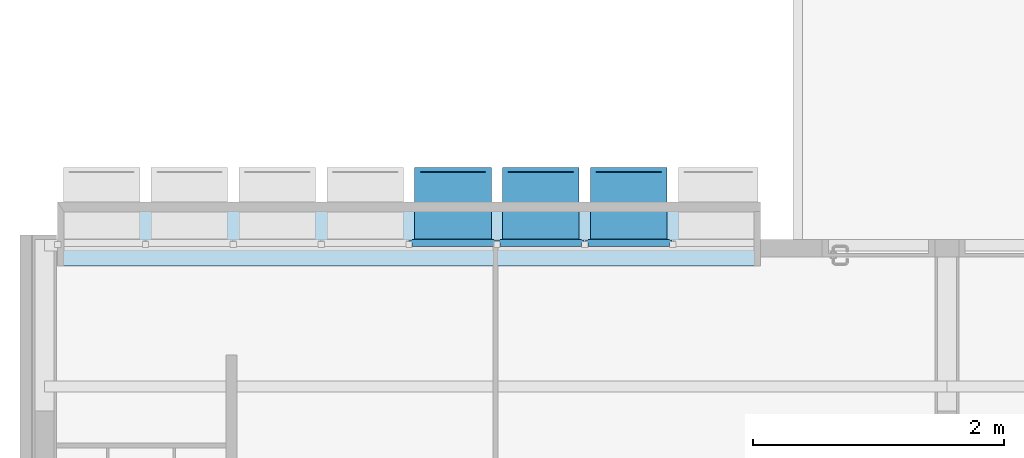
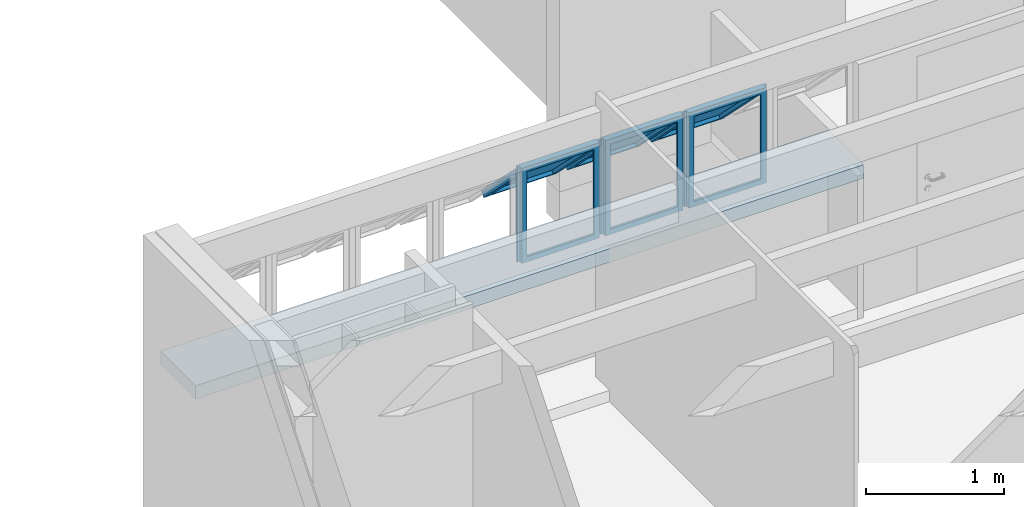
# One storey, part 8 of 40: 3 plates, 1 slab, 1 element without a shape of its own.
"""IFC4 building model written with IfcOpenShell, lengths in millimetres."""

from ifc_helpers import new_model, entity, si_unit, converted_unit, derived_unit, direction, frame, origin_with_axes, place, context, subcontext, project, spatial, line, indexed_curve, outline, extrude, polygons, source, transform, mapped, material, layer, layer_set, layer_usage, constituent, constituent_set, type_object, element, aggregate, save


model = new_model("IFC4")

# Units and contexts
model_context = context("Model", 3, precision=0.01, world=origin_with_axes(), true_north=direction((0.0, 1.0)))
body_context = subcontext(model_context, "Body", "Model", "MODEL_VIEW")
ifc_project = project(units=[si_unit("LENGTHUNIT", "METRE", prefix="MILLI"), si_unit("AREAUNIT", "SQUARE_METRE"), si_unit("VOLUMEUNIT", "CUBIC_METRE"), converted_unit("PLANEANGLEUNIT", "DEGREE", entity("IfcPlaneAngleMeasure", 0.0174532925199), si_unit("PLANEANGLEUNIT", "RADIAN"), dimensions=[0, 0, 0, 0, 0, 0, 0]), converted_unit("TIMEUNIT", "Year", entity("IfcTimeMeasure", 31556926.0), si_unit("TIMEUNIT", "SECOND"), dimensions=[0, 0, 1, 0, 0, 0, 0]), si_unit("MASSUNIT", "GRAM", prefix="KILO"), si_unit("THERMODYNAMICTEMPERATUREUNIT", "DEGREE_CELSIUS"), si_unit("LUMINOUSINTENSITYUNIT", "LUMEN"), si_unit("ENERGYUNIT", "JOULE", prefix="MEGA"), derived_unit("THERMALCONDUCTANCEUNIT", [(si_unit("POWERUNIT", "WATT"), 1), (si_unit("LENGTHUNIT", "METRE"), -1), (si_unit("THERMODYNAMICTEMPERATUREUNIT", "KELVIN"), -1)]), derived_unit("SPECIFICHEATCAPACITYUNIT", [(si_unit("ENERGYUNIT", "JOULE"), 1), (si_unit("MASSUNIT", "GRAM", prefix="KILO"), -1), (si_unit("THERMODYNAMICTEMPERATUREUNIT", "KELVIN"), -1)]), derived_unit("MASSDENSITYUNIT", [(si_unit("MASSUNIT", "GRAM", prefix="KILO"), 1), (si_unit("VOLUMEUNIT", "CUBIC_METRE"), -1)])], contexts=[model_context])

# Site, building, storey
site_placement = place(None, origin_with_axes())
site = spatial("IfcSite", under=ifc_project, at=site_placement, Name="Local", CompositionType="ELEMENT")
building_placement = place(site_placement, origin_with_axes())
building = spatial("IfcBuilding", under=site, at=building_placement, Name="Construção", CompositionType="ELEMENT")
storey_placement = place(building_placement, origin_with_axes())
storey = spatial("IfcBuildingStorey", under=building, at=storey_placement, Name="Primeiro Pavimento", CompositionType="ELEMENT", Elevation=0.0)

# Slab
ifc_material_1 = material(Name="Concreto Armado Moldado in Loco - Estrutural")
ifc_layer = layer(ifc_material_1, 120.0, ventilated="UNKNOWN", Name="Concreto Armado Moldado in Loco - Estrutural")
ifc_layer_set = layer_set([ifc_layer], Name="Concreto Armado Moldado in Loco - Estrutural 120")
ifc_layer_usage = layer_usage(ifc_layer_set, "AXIS3", "NEGATIVE", 120.0)
slab_type = type_object("IfcSlabType", Name="Concreto Armado Moldado in Loco - Estrutural 120", PredefinedType="FLOOR")
slab_placement = place(storey_placement, frame((300.0, 8564.99999866, 1355.0), z_axis=(0.0, 0.0, 1.0), x_axis=(1.0, 0.0, 0.0)))
element("IfcSlab", 1, at=slab_placement, inside=storey, type_object=slab_type, material=ifc_layer_usage, Name="APTO1-LAJE-003", PredefinedType="FLOOR", context=body_context, shape_type="SweptSolid", body=[
    extrude(outline(indexed_curve([(0.0, 0.0), (0.0, -510.0), (5600.0, -510.0), (5600.0, 0.0)], segments=[line(1, 2, 3, 4, 1)])), frame((0.0, 0.0, -120.0), z_axis=(0.0, 0.0, 1.0), x_axis=(1.0, 0.0, 0.0)), (0.0, 0.0, 1.0), 120.0),
])

# Window, plates
window_type = type_object("IfcWindowType", Name="Tipo de Parede Cortina", PartitioningType="NOTDEFINED", PredefinedType="NOTDEFINED")
window_placement = place(storey_placement, frame((294.99998404, 8250.0, 1355.00007107), z_axis=(0.0, 0.0, 1.0), x_axis=(1.0, 0.0, 0.0)))
window = element("IfcWindow", 2, at=window_placement, inside=storey, type_object=window_type, Name="APTO1-JANELA-000", PredefinedType="NOTDEFINED")
ifc_material_2 = material(Name="Alumínio")
ifc_constituent_1 = constituent(ifc_material_2, Name="Alumínio")
ifc_material_3 = material(Name="Vidro")
ifc_constituent_2 = constituent(ifc_material_3, Name="Vidro")
ifc_constituent_set_1 = constituent_set(constituents=[ifc_constituent_1, ifc_constituent_2])
plate_type = type_object("IfcPlateType", Name="Painel Principal 690 x 845 x 20", PredefinedType="CURTAIN_PANEL")
shared_shape_1 = source(origin_with_axes(), body_context, "Body", "Tessellation", [
    polygons([(-25.0000036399, 0.0, -40.0), (-25.0000036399, 0.0, -35.0), (-674.999997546, 0.0, -35.0), (-674.999997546, 0.0, -40.0), (-70.0000036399, 45.0, -40.0), (-70.0000036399, 45.0, -35.0), (-629.999997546, 45.0, -35.0), (-629.999997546, 45.0, -40.0)], [[[1, 2, 3, 4]], [[5, 6, 2, 1]], [[2, 6, 7, 3]], [[4, 3, 7, 8]], [[1, 4, 8, 5]], [[8, 7, 6, 5]]], closed=True),
    polygons([(-674.999997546, 0.0, -40.0), (-674.999997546, 0.0, -35.0), (-674.999997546, 844.999891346, -35.0), (-674.999997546, 844.999891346, -40.0), (-629.999997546, 45.0, -40.0), (-629.999997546, 45.0, -35.0), (-629.999997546, 799.999891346, -35.0), (-629.999997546, 799.999891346, -40.0)], [[[1, 2, 3, 4]], [[5, 6, 2, 1]], [[2, 6, 7, 3]], [[4, 3, 7, 8]], [[1, 4, 8, 5]], [[8, 7, 6, 5]]], closed=True),
    polygons([(-25.0000036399, 844.999891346, -40.0), (-25.0000036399, 844.999891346, -35.0), (-70.0000036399, 799.999891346, -35.0), (-70.0000036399, 799.999891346, -40.0), (-674.999997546, 844.999891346, -40.0), (-674.999997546, 844.999891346, -35.0), (-629.999997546, 799.999891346, -35.0), (-629.999997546, 799.999891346, -40.0)], [[[1, 2, 3, 4]], [[5, 6, 2, 1]], [[2, 6, 7, 3]], [[4, 3, 7, 8]], [[1, 4, 8, 5]], [[8, 7, 6, 5]]], closed=True),
    polygons([(-25.0000036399, 0.0, -40.0), (-25.0000036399, 0.0, -35.0), (-70.0000036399, 45.0, -35.0), (-70.0000036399, 45.0, -40.0), (-25.0000036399, 844.999891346, -40.0), (-25.0000036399, 844.999891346, -35.0), (-70.0000036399, 799.999891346, -35.0), (-70.0000036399, 799.999891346, -40.0)], [[[1, 2, 3, 4]], [[5, 6, 2, 1]], [[2, 6, 7, 3]], [[4, 3, 7, 8]], [[1, 4, 8, 5]], [[8, 7, 6, 5]]], closed=True),
    polygons([(-25.0000036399, 0.0, -35.0), (-25.0000036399, 0.0, 15.0), (-674.999997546, 0.0, 15.0), (-674.999997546, 0.0, -35.0), (-45.0000036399, 20.0, -35.0), (-45.0000036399, 20.0, 15.0), (-654.999997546, 20.0, 15.0), (-654.999997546, 20.0, -35.0)], [[[1, 2, 3, 4]], [[5, 6, 2, 1]], [[2, 6, 7, 3]], [[4, 3, 7, 8]], [[1, 4, 8, 5]], [[8, 7, 6, 5]]], closed=True),
    polygons([(-674.999997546, 0.0, -35.0), (-674.999997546, 0.0, 15.0), (-674.999997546, 844.999891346, 15.0), (-674.999997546, 844.999891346, -35.0), (-654.999997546, 20.0, -35.0), (-654.999997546, 20.0, 15.0), (-654.999997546, 824.999891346, 15.0), (-654.999997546, 824.999891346, -35.0)], [[[1, 2, 3, 4]], [[5, 6, 2, 1]], [[2, 6, 7, 3]], [[4, 3, 7, 8]], [[1, 4, 8, 5]], [[8, 7, 6, 5]]], closed=True),
    polygons([(-25.0000036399, 844.999891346, -35.0), (-25.0000036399, 844.999891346, 15.0), (-45.0000036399, 824.999891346, 15.0), (-45.0000036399, 824.999891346, -35.0), (-674.999997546, 844.999891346, -35.0), (-674.999997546, 844.999891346, 15.0), (-654.999997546, 824.999891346, 15.0), (-654.999997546, 824.999891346, -35.0)], [[[1, 2, 3, 4]], [[5, 6, 2, 1]], [[2, 6, 7, 3]], [[4, 3, 7, 8]], [[1, 4, 8, 5]], [[8, 7, 6, 5]]], closed=True),
    polygons([(-25.0000036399, 0.0, -35.0), (-25.0000036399, 0.0, 15.0), (-45.0000036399, 20.0, 15.0), (-45.0000036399, 20.0, -35.0), (-25.0000036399, 844.999891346, -35.0), (-25.0000036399, 844.999891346, 15.0), (-45.0000036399, 824.999891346, 15.0), (-45.0000036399, 824.999891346, -35.0)], [[[1, 2, 3, 4]], [[5, 6, 2, 1]], [[2, 6, 7, 3]], [[4, 3, 7, 8]], [[1, 4, 8, 5]], [[8, 7, 6, 5]]], closed=True),
    polygons([(-694.999995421, 0.0, -10.0), (-694.999995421, 0.0, 10.0), (-694.999995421, 844.999891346, 10.0), (-694.999995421, 844.999891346, -10.0), (-674.999997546, 0.0, -10.0), (-674.999997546, 0.0, 10.0), (-674.999997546, 844.999891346, 10.0), (-674.999997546, 844.999891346, -10.0)], [[[1, 2, 3, 4]], [[5, 6, 2, 1]], [[2, 6, 7, 3]], [[4, 3, 7, 8]], [[1, 4, 8, 5]], [[8, 7, 6, 5]]], closed=True),
    polygons([(-5.00000576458, 844.999891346, -10.0), (-5.00000576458, 844.999891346, 10.0), (-5.00000576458, 0.0, 10.0), (-5.00000576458, 0.0, -10.0), (-25.0000036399, 844.999891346, -10.0), (-25.0000036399, 844.999891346, 10.0), (-25.0000036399, 0.0, 10.0), (-25.0000036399, 0.0, -10.0)], [[[1, 2, 3, 4]], [[5, 6, 2, 1]], [[2, 6, 7, 3]], [[4, 3, 7, 8]], [[1, 4, 8, 5]], [[8, 7, 6, 5]]], closed=True),
    polygons([(-90.0000036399, 252.243475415, 517.045737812), (-90.0000036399, 291.13434838, 555.936610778), (-90.0000036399, 796.715620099, 50.3553390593), (-90.0000036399, 757.824747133, 11.4644660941), (-45.0000036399, 220.423670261, 548.865542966), (-45.0000036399, 259.314543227, 587.756415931), (-45.0000036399, 828.535425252, 18.5355339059), (-45.0000036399, 789.644552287, -20.3553390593)], [[[1, 2, 3, 4]], [[5, 6, 2, 1]], [[2, 6, 7, 3]], [[4, 3, 7, 8]], [[1, 4, 8, 5]], [[8, 7, 6, 5]]], closed=True),
    polygons([(-654.999997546, 220.423670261, 548.865542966), (-654.999997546, 259.314543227, 587.756415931), (-654.999997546, 828.535425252, 18.5355339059), (-654.999997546, 789.644552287, -20.3553390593), (-609.999997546, 252.243475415, 517.045737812), (-609.999997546, 291.13434838, 555.936610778), (-609.999997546, 796.715620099, 50.3553390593), (-609.999997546, 757.824747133, 11.4644660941)], [[[1, 2, 3, 4]], [[5, 6, 2, 1]], [[2, 6, 7, 3]], [[4, 3, 7, 8]], [[1, 4, 8, 5]], [[8, 7, 6, 5]]], closed=True),
    polygons([(-654.999997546, 220.423670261, 548.865542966), (-654.999997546, 259.314543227, 587.756415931), (-609.999997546, 291.13434838, 555.936610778), (-609.999997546, 252.243475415, 517.045737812), (-45.0000036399, 220.423670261, 548.865542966), (-45.0000036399, 259.314543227, 587.756415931), (-90.0000036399, 291.13434838, 555.936610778), (-90.0000036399, 252.243475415, 517.045737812)], [[[1, 2, 3, 4]], [[5, 6, 2, 1]], [[2, 6, 7, 3]], [[4, 3, 7, 8]], [[1, 4, 8, 5]], [[8, 7, 6, 5]]], closed=True),
    polygons([(-45.0000036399, 789.644552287, -20.3553390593), (-45.0000036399, 828.535425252, 18.5355339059), (-90.0000036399, 796.715620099, 50.3553390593), (-90.0000036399, 757.824747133, 11.4644660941), (-654.999997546, 789.644552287, -20.3553390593), (-654.999997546, 828.535425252, 18.5355339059), (-609.999997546, 796.715620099, 50.3553390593), (-609.999997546, 757.824747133, 11.4644660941)], [[[1, 2, 3, 4]], [[5, 6, 2, 1]], [[2, 6, 7, 3]], [[4, 3, 7, 8]], [[1, 4, 8, 5]], [[8, 7, 6, 5]]], closed=True),
    polygons([(-90.0000036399, 272.749572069, 537.551834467), (-90.0000036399, 284.063280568, 548.865542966), (-609.999997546, 284.063280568, 548.865542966), (-609.999997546, 272.749572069, 537.551834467), (-90.0000036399, 778.330843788, 31.9705627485), (-90.0000036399, 789.644552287, 43.2842712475), (-609.999997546, 789.644552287, 43.2842712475), (-609.999997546, 778.330843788, 31.9705627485)], [[[1, 2, 3, 4]], [[5, 6, 2, 1]], [[2, 6, 7, 3]], [[4, 3, 7, 8]], [[1, 4, 8, 5]], [[8, 7, 6, 5]]], closed=True),
])
plate_1_placement = place(window_placement, frame((4555.00001596, 0.0, 422.499964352), z_axis=(0.0, 0.0, 1.0), x_axis=(-1.0, 0.0, 0.0)))
plate_1 = element("IfcPlate", 3, at=plate_1_placement, type_object=plate_type, material=ifc_constituent_set_1, Name="APTO1-Painel-Prin-029", PredefinedType="CURTAIN_PANEL", context=body_context, shape_type="MappedRepresentation", body=[
    mapped(shared_shape_1, transform((350.0, 0.0, -422.499964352), x_axis=(1.0, 0.0, 0.0), y_axis=(0.0, 0.0, 1.0), z_axis=(0.0, -1.0, 0.0))),
])
ifc_constituent_3 = constituent(ifc_material_2, Name="Alumínio")
ifc_constituent_4 = constituent(ifc_material_3, Name="Vidro")
ifc_constituent_set_2 = constituent_set(constituents=[ifc_constituent_3, ifc_constituent_4])
shared_shape_2 = source(origin_with_axes(), body_context, "Body", "Tessellation", [
    polygons([(-25.0000036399, 0.0, -40.0), (-25.0000036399, 0.0, -35.0), (-674.999997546, 0.0, -35.0), (-674.999997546, 0.0, -40.0), (-70.0000036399, 45.0, -40.0), (-70.0000036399, 45.0, -35.0), (-629.999997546, 45.0, -35.0), (-629.999997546, 45.0, -40.0)], [[[1, 2, 3, 4]], [[5, 6, 2, 1]], [[2, 6, 7, 3]], [[4, 3, 7, 8]], [[1, 4, 8, 5]], [[8, 7, 6, 5]]], closed=True),
    polygons([(-674.999997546, 0.0, -40.0), (-674.999997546, 0.0, -35.0), (-674.999997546, 844.999891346, -35.0), (-674.999997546, 844.999891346, -40.0), (-629.999997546, 45.0, -40.0), (-629.999997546, 45.0, -35.0), (-629.999997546, 799.999891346, -35.0), (-629.999997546, 799.999891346, -40.0)], [[[1, 2, 3, 4]], [[5, 6, 2, 1]], [[2, 6, 7, 3]], [[4, 3, 7, 8]], [[1, 4, 8, 5]], [[8, 7, 6, 5]]], closed=True),
    polygons([(-25.0000036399, 844.999891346, -40.0), (-25.0000036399, 844.999891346, -35.0), (-70.0000036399, 799.999891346, -35.0), (-70.0000036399, 799.999891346, -40.0), (-674.999997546, 844.999891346, -40.0), (-674.999997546, 844.999891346, -35.0), (-629.999997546, 799.999891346, -35.0), (-629.999997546, 799.999891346, -40.0)], [[[1, 2, 3, 4]], [[5, 6, 2, 1]], [[2, 6, 7, 3]], [[4, 3, 7, 8]], [[1, 4, 8, 5]], [[8, 7, 6, 5]]], closed=True),
    polygons([(-25.0000036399, 0.0, -40.0), (-25.0000036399, 0.0, -35.0), (-70.0000036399, 45.0, -35.0), (-70.0000036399, 45.0, -40.0), (-25.0000036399, 844.999891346, -40.0), (-25.0000036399, 844.999891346, -35.0), (-70.0000036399, 799.999891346, -35.0), (-70.0000036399, 799.999891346, -40.0)], [[[1, 2, 3, 4]], [[5, 6, 2, 1]], [[2, 6, 7, 3]], [[4, 3, 7, 8]], [[1, 4, 8, 5]], [[8, 7, 6, 5]]], closed=True),
    polygons([(-25.0000036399, 0.0, -35.0), (-25.0000036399, 0.0, 15.0), (-674.999997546, 0.0, 15.0), (-674.999997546, 0.0, -35.0), (-45.0000036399, 20.0, -35.0), (-45.0000036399, 20.0, 15.0), (-654.999997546, 20.0, 15.0), (-654.999997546, 20.0, -35.0)], [[[1, 2, 3, 4]], [[5, 6, 2, 1]], [[2, 6, 7, 3]], [[4, 3, 7, 8]], [[1, 4, 8, 5]], [[8, 7, 6, 5]]], closed=True),
    polygons([(-674.999997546, 0.0, -35.0), (-674.999997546, 0.0, 15.0), (-674.999997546, 844.999891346, 15.0), (-674.999997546, 844.999891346, -35.0), (-654.999997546, 20.0, -35.0), (-654.999997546, 20.0, 15.0), (-654.999997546, 824.999891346, 15.0), (-654.999997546, 824.999891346, -35.0)], [[[1, 2, 3, 4]], [[5, 6, 2, 1]], [[2, 6, 7, 3]], [[4, 3, 7, 8]], [[1, 4, 8, 5]], [[8, 7, 6, 5]]], closed=True),
    polygons([(-25.0000036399, 844.999891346, -35.0), (-25.0000036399, 844.999891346, 15.0), (-45.0000036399, 824.999891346, 15.0), (-45.0000036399, 824.999891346, -35.0), (-674.999997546, 844.999891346, -35.0), (-674.999997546, 844.999891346, 15.0), (-654.999997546, 824.999891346, 15.0), (-654.999997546, 824.999891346, -35.0)], [[[1, 2, 3, 4]], [[5, 6, 2, 1]], [[2, 6, 7, 3]], [[4, 3, 7, 8]], [[1, 4, 8, 5]], [[8, 7, 6, 5]]], closed=True),
    polygons([(-25.0000036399, 0.0, -35.0), (-25.0000036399, 0.0, 15.0), (-45.0000036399, 20.0, 15.0), (-45.0000036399, 20.0, -35.0), (-25.0000036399, 844.999891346, -35.0), (-25.0000036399, 844.999891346, 15.0), (-45.0000036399, 824.999891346, 15.0), (-45.0000036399, 824.999891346, -35.0)], [[[1, 2, 3, 4]], [[5, 6, 2, 1]], [[2, 6, 7, 3]], [[4, 3, 7, 8]], [[1, 4, 8, 5]], [[8, 7, 6, 5]]], closed=True),
    polygons([(-694.999995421, 0.0, -10.0), (-694.999995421, 0.0, 10.0), (-694.999995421, 844.999891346, 10.0), (-694.999995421, 844.999891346, -10.0), (-674.999997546, 0.0, -10.0), (-674.999997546, 0.0, 10.0), (-674.999997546, 844.999891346, 10.0), (-674.999997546, 844.999891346, -10.0)], [[[1, 2, 3, 4]], [[5, 6, 2, 1]], [[2, 6, 7, 3]], [[4, 3, 7, 8]], [[1, 4, 8, 5]], [[8, 7, 6, 5]]], closed=True),
    polygons([(-5.00000576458, 844.999891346, -10.0), (-5.00000576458, 844.999891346, 10.0), (-5.00000576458, 0.0, 10.0), (-5.00000576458, 0.0, -10.0), (-25.0000036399, 844.999891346, -10.0), (-25.0000036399, 844.999891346, 10.0), (-25.0000036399, 0.0, 10.0), (-25.0000036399, 0.0, -10.0)], [[[1, 2, 3, 4]], [[5, 6, 2, 1]], [[2, 6, 7, 3]], [[4, 3, 7, 8]], [[1, 4, 8, 5]], [[8, 7, 6, 5]]], closed=True),
    polygons([(-90.0000036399, 252.243475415, 517.045737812), (-90.0000036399, 291.13434838, 555.936610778), (-90.0000036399, 796.715620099, 50.3553390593), (-90.0000036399, 757.824747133, 11.4644660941), (-45.0000036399, 220.423670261, 548.865542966), (-45.0000036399, 259.314543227, 587.756415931), (-45.0000036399, 828.535425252, 18.5355339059), (-45.0000036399, 789.644552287, -20.3553390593)], [[[1, 2, 3, 4]], [[5, 6, 2, 1]], [[2, 6, 7, 3]], [[4, 3, 7, 8]], [[1, 4, 8, 5]], [[8, 7, 6, 5]]], closed=True),
    polygons([(-654.999997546, 220.423670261, 548.865542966), (-654.999997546, 259.314543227, 587.756415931), (-654.999997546, 828.535425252, 18.5355339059), (-654.999997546, 789.644552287, -20.3553390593), (-609.999997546, 252.243475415, 517.045737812), (-609.999997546, 291.13434838, 555.936610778), (-609.999997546, 796.715620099, 50.3553390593), (-609.999997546, 757.824747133, 11.4644660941)], [[[1, 2, 3, 4]], [[5, 6, 2, 1]], [[2, 6, 7, 3]], [[4, 3, 7, 8]], [[1, 4, 8, 5]], [[8, 7, 6, 5]]], closed=True),
    polygons([(-654.999997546, 220.423670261, 548.865542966), (-654.999997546, 259.314543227, 587.756415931), (-609.999997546, 291.13434838, 555.936610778), (-609.999997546, 252.243475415, 517.045737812), (-45.0000036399, 220.423670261, 548.865542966), (-45.0000036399, 259.314543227, 587.756415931), (-90.0000036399, 291.13434838, 555.936610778), (-90.0000036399, 252.243475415, 517.045737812)], [[[1, 2, 3, 4]], [[5, 6, 2, 1]], [[2, 6, 7, 3]], [[4, 3, 7, 8]], [[1, 4, 8, 5]], [[8, 7, 6, 5]]], closed=True),
    polygons([(-45.0000036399, 789.644552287, -20.3553390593), (-45.0000036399, 828.535425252, 18.5355339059), (-90.0000036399, 796.715620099, 50.3553390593), (-90.0000036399, 757.824747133, 11.4644660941), (-654.999997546, 789.644552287, -20.3553390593), (-654.999997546, 828.535425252, 18.5355339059), (-609.999997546, 796.715620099, 50.3553390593), (-609.999997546, 757.824747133, 11.4644660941)], [[[1, 2, 3, 4]], [[5, 6, 2, 1]], [[2, 6, 7, 3]], [[4, 3, 7, 8]], [[1, 4, 8, 5]], [[8, 7, 6, 5]]], closed=True),
    polygons([(-90.0000036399, 272.749572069, 537.551834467), (-90.0000036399, 284.063280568, 548.865542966), (-609.999997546, 284.063280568, 548.865542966), (-609.999997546, 272.749572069, 537.551834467), (-90.0000036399, 778.330843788, 31.9705627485), (-90.0000036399, 789.644552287, 43.2842712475), (-609.999997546, 789.644552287, 43.2842712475), (-609.999997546, 778.330843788, 31.9705627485)], [[[1, 2, 3, 4]], [[5, 6, 2, 1]], [[2, 6, 7, 3]], [[4, 3, 7, 8]], [[1, 4, 8, 5]], [[8, 7, 6, 5]]], closed=True),
])
plate_2_placement = place(window_placement, frame((3855.00001596, 0.0, 422.499964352), z_axis=(0.0, 0.0, 1.0), x_axis=(-1.0, 0.0, 0.0)))
plate_2 = element("IfcPlate", 4, at=plate_2_placement, type_object=plate_type, material=ifc_constituent_set_2, Name="APTO1-Painel-Prin-025", PredefinedType="CURTAIN_PANEL", context=body_context, shape_type="MappedRepresentation", body=[
    mapped(shared_shape_2, transform((350.0, 0.0, -422.499964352), x_axis=(1.0, 0.0, 0.0), y_axis=(0.0, 0.0, 1.0), z_axis=(0.0, -1.0, 0.0))),
])
ifc_constituent_5 = constituent(ifc_material_2, Name="Alumínio")
ifc_constituent_6 = constituent(ifc_material_3, Name="Vidro")
ifc_constituent_set_3 = constituent_set(constituents=[ifc_constituent_5, ifc_constituent_6])
shared_shape_3 = source(origin_with_axes(), body_context, "Body", "Tessellation", [
    polygons([(-25.0000036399, 0.0, -40.0), (-25.0000036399, 0.0, -35.0), (-674.999997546, 0.0, -35.0), (-674.999997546, 0.0, -40.0), (-70.0000036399, 45.0, -40.0), (-70.0000036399, 45.0, -35.0), (-629.999997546, 45.0, -35.0), (-629.999997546, 45.0, -40.0)], [[[1, 2, 3, 4]], [[5, 6, 2, 1]], [[2, 6, 7, 3]], [[4, 3, 7, 8]], [[1, 4, 8, 5]], [[8, 7, 6, 5]]], closed=True),
    polygons([(-674.999997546, 0.0, -40.0), (-674.999997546, 0.0, -35.0), (-674.999997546, 844.999891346, -35.0), (-674.999997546, 844.999891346, -40.0), (-629.999997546, 45.0, -40.0), (-629.999997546, 45.0, -35.0), (-629.999997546, 799.999891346, -35.0), (-629.999997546, 799.999891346, -40.0)], [[[1, 2, 3, 4]], [[5, 6, 2, 1]], [[2, 6, 7, 3]], [[4, 3, 7, 8]], [[1, 4, 8, 5]], [[8, 7, 6, 5]]], closed=True),
    polygons([(-25.0000036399, 844.999891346, -40.0), (-25.0000036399, 844.999891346, -35.0), (-70.0000036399, 799.999891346, -35.0), (-70.0000036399, 799.999891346, -40.0), (-674.999997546, 844.999891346, -40.0), (-674.999997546, 844.999891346, -35.0), (-629.999997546, 799.999891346, -35.0), (-629.999997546, 799.999891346, -40.0)], [[[1, 2, 3, 4]], [[5, 6, 2, 1]], [[2, 6, 7, 3]], [[4, 3, 7, 8]], [[1, 4, 8, 5]], [[8, 7, 6, 5]]], closed=True),
    polygons([(-25.0000036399, 0.0, -40.0), (-25.0000036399, 0.0, -35.0), (-70.0000036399, 45.0, -35.0), (-70.0000036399, 45.0, -40.0), (-25.0000036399, 844.999891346, -40.0), (-25.0000036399, 844.999891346, -35.0), (-70.0000036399, 799.999891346, -35.0), (-70.0000036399, 799.999891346, -40.0)], [[[1, 2, 3, 4]], [[5, 6, 2, 1]], [[2, 6, 7, 3]], [[4, 3, 7, 8]], [[1, 4, 8, 5]], [[8, 7, 6, 5]]], closed=True),
    polygons([(-25.0000036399, 0.0, -35.0), (-25.0000036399, 0.0, 15.0), (-674.999997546, 0.0, 15.0), (-674.999997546, 0.0, -35.0), (-45.0000036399, 20.0, -35.0), (-45.0000036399, 20.0, 15.0), (-654.999997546, 20.0, 15.0), (-654.999997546, 20.0, -35.0)], [[[1, 2, 3, 4]], [[5, 6, 2, 1]], [[2, 6, 7, 3]], [[4, 3, 7, 8]], [[1, 4, 8, 5]], [[8, 7, 6, 5]]], closed=True),
    polygons([(-674.999997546, 0.0, -35.0), (-674.999997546, 0.0, 15.0), (-674.999997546, 844.999891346, 15.0), (-674.999997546, 844.999891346, -35.0), (-654.999997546, 20.0, -35.0), (-654.999997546, 20.0, 15.0), (-654.999997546, 824.999891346, 15.0), (-654.999997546, 824.999891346, -35.0)], [[[1, 2, 3, 4]], [[5, 6, 2, 1]], [[2, 6, 7, 3]], [[4, 3, 7, 8]], [[1, 4, 8, 5]], [[8, 7, 6, 5]]], closed=True),
    polygons([(-25.0000036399, 844.999891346, -35.0), (-25.0000036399, 844.999891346, 15.0), (-45.0000036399, 824.999891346, 15.0), (-45.0000036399, 824.999891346, -35.0), (-674.999997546, 844.999891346, -35.0), (-674.999997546, 844.999891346, 15.0), (-654.999997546, 824.999891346, 15.0), (-654.999997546, 824.999891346, -35.0)], [[[1, 2, 3, 4]], [[5, 6, 2, 1]], [[2, 6, 7, 3]], [[4, 3, 7, 8]], [[1, 4, 8, 5]], [[8, 7, 6, 5]]], closed=True),
    polygons([(-25.0000036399, 0.0, -35.0), (-25.0000036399, 0.0, 15.0), (-45.0000036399, 20.0, 15.0), (-45.0000036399, 20.0, -35.0), (-25.0000036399, 844.999891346, -35.0), (-25.0000036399, 844.999891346, 15.0), (-45.0000036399, 824.999891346, 15.0), (-45.0000036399, 824.999891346, -35.0)], [[[1, 2, 3, 4]], [[5, 6, 2, 1]], [[2, 6, 7, 3]], [[4, 3, 7, 8]], [[1, 4, 8, 5]], [[8, 7, 6, 5]]], closed=True),
    polygons([(-694.999995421, 0.0, -10.0), (-694.999995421, 0.0, 10.0), (-694.999995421, 844.999891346, 10.0), (-694.999995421, 844.999891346, -10.0), (-674.999997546, 0.0, -10.0), (-674.999997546, 0.0, 10.0), (-674.999997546, 844.999891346, 10.0), (-674.999997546, 844.999891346, -10.0)], [[[1, 2, 3, 4]], [[5, 6, 2, 1]], [[2, 6, 7, 3]], [[4, 3, 7, 8]], [[1, 4, 8, 5]], [[8, 7, 6, 5]]], closed=True),
    polygons([(-5.00000576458, 844.999891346, -10.0), (-5.00000576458, 844.999891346, 10.0), (-5.00000576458, 0.0, 10.0), (-5.00000576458, 0.0, -10.0), (-25.0000036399, 844.999891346, -10.0), (-25.0000036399, 844.999891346, 10.0), (-25.0000036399, 0.0, 10.0), (-25.0000036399, 0.0, -10.0)], [[[1, 2, 3, 4]], [[5, 6, 2, 1]], [[2, 6, 7, 3]], [[4, 3, 7, 8]], [[1, 4, 8, 5]], [[8, 7, 6, 5]]], closed=True),
    polygons([(-90.0000036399, 252.243475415, 517.045737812), (-90.0000036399, 291.13434838, 555.936610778), (-90.0000036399, 796.715620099, 50.3553390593), (-90.0000036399, 757.824747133, 11.4644660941), (-45.0000036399, 220.423670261, 548.865542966), (-45.0000036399, 259.314543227, 587.756415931), (-45.0000036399, 828.535425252, 18.5355339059), (-45.0000036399, 789.644552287, -20.3553390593)], [[[1, 2, 3, 4]], [[5, 6, 2, 1]], [[2, 6, 7, 3]], [[4, 3, 7, 8]], [[1, 4, 8, 5]], [[8, 7, 6, 5]]], closed=True),
    polygons([(-654.999997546, 220.423670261, 548.865542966), (-654.999997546, 259.314543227, 587.756415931), (-654.999997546, 828.535425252, 18.5355339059), (-654.999997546, 789.644552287, -20.3553390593), (-609.999997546, 252.243475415, 517.045737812), (-609.999997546, 291.13434838, 555.936610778), (-609.999997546, 796.715620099, 50.3553390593), (-609.999997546, 757.824747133, 11.4644660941)], [[[1, 2, 3, 4]], [[5, 6, 2, 1]], [[2, 6, 7, 3]], [[4, 3, 7, 8]], [[1, 4, 8, 5]], [[8, 7, 6, 5]]], closed=True),
    polygons([(-654.999997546, 220.423670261, 548.865542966), (-654.999997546, 259.314543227, 587.756415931), (-609.999997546, 291.13434838, 555.936610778), (-609.999997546, 252.243475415, 517.045737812), (-45.0000036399, 220.423670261, 548.865542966), (-45.0000036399, 259.314543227, 587.756415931), (-90.0000036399, 291.13434838, 555.936610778), (-90.0000036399, 252.243475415, 517.045737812)], [[[1, 2, 3, 4]], [[5, 6, 2, 1]], [[2, 6, 7, 3]], [[4, 3, 7, 8]], [[1, 4, 8, 5]], [[8, 7, 6, 5]]], closed=True),
    polygons([(-45.0000036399, 789.644552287, -20.3553390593), (-45.0000036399, 828.535425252, 18.5355339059), (-90.0000036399, 796.715620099, 50.3553390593), (-90.0000036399, 757.824747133, 11.4644660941), (-654.999997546, 789.644552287, -20.3553390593), (-654.999997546, 828.535425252, 18.5355339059), (-609.999997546, 796.715620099, 50.3553390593), (-609.999997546, 757.824747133, 11.4644660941)], [[[1, 2, 3, 4]], [[5, 6, 2, 1]], [[2, 6, 7, 3]], [[4, 3, 7, 8]], [[1, 4, 8, 5]], [[8, 7, 6, 5]]], closed=True),
    polygons([(-90.0000036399, 272.749572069, 537.551834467), (-90.0000036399, 284.063280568, 548.865542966), (-609.999997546, 284.063280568, 548.865542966), (-609.999997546, 272.749572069, 537.551834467), (-90.0000036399, 778.330843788, 31.9705627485), (-90.0000036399, 789.644552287, 43.2842712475), (-609.999997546, 789.644552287, 43.2842712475), (-609.999997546, 778.330843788, 31.9705627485)], [[[1, 2, 3, 4]], [[5, 6, 2, 1]], [[2, 6, 7, 3]], [[4, 3, 7, 8]], [[1, 4, 8, 5]], [[8, 7, 6, 5]]], closed=True),
])
plate_3_placement = place(window_placement, frame((3155.00001596, 0.0, 422.499964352), z_axis=(0.0, 0.0, 1.0), x_axis=(-1.0, 0.0, 0.0)))
plate_3 = element("IfcPlate", 5, at=plate_3_placement, type_object=plate_type, material=ifc_constituent_set_3, Name="APTO1-Painel-Prin-013", PredefinedType="CURTAIN_PANEL", context=body_context, shape_type="MappedRepresentation", body=[
    mapped(shared_shape_3, transform((350.0, 0.0, -422.499964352), x_axis=(1.0, 0.0, 0.0), y_axis=(0.0, 0.0, 1.0), z_axis=(0.0, -1.0, 0.0))),
])
aggregate(window, [plate_2, plate_3, plate_1])

save(model, "model.ifc")
